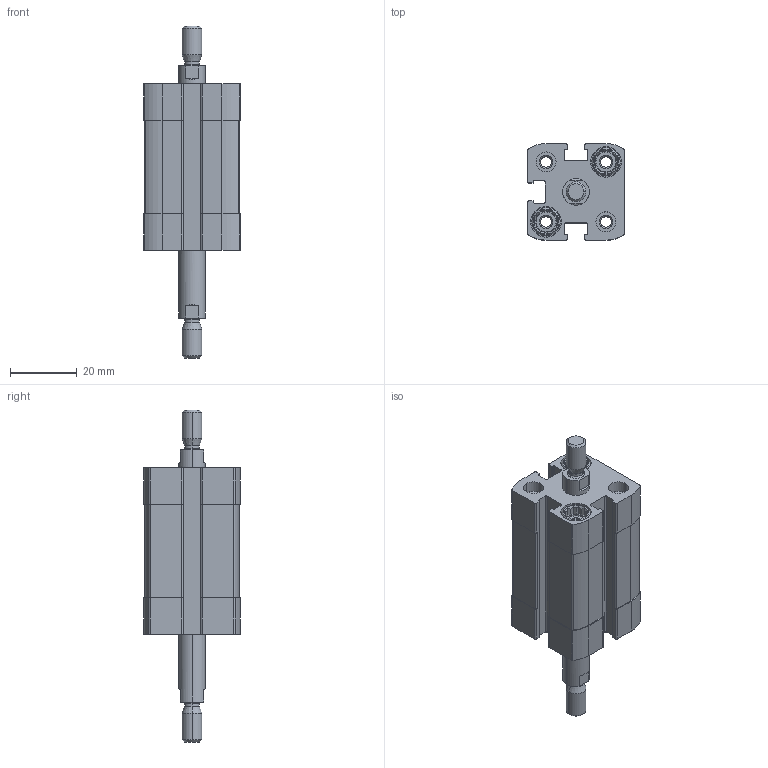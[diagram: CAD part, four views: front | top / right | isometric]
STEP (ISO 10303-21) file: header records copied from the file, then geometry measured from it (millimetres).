
FILE_DESCRIPTION (( 'STEP AP203' ), '1' );
FILE_NAME ('CCN16-15-P.STEP', '2020-06-22T18:37:00', ( '' ), ( '' ), 'SwSTEP 2.0', 'SolidWorks 2019', '' );
FILE_SCHEMA (( 'CONFIG_CONTROL_DESIGN' ));
Length unit declared in the file: millimetre
Products named in the file (1): CCN16-15-P
Bounding box: 29 x 29 x 99.7 mm (x, y, z)
Volume: 32401.4 mm3; surface area: 17279.7 mm2
Topology: 2 solids, 2 shells, 384 faces, 978 edges, 634 vertices
Faces by surface type: plane 192, cylinder 140, cone 44, torus 8
Entity records: 11803 total; most frequent: CARTESIAN_POINT 2297, DIRECTION 1990, ORIENTED_EDGE 1956, EDGE_CURVE 978, AXIS2_PLACEMENT_3D 727, VERTEX_POINT 634, VECTOR 536, LINE 536
